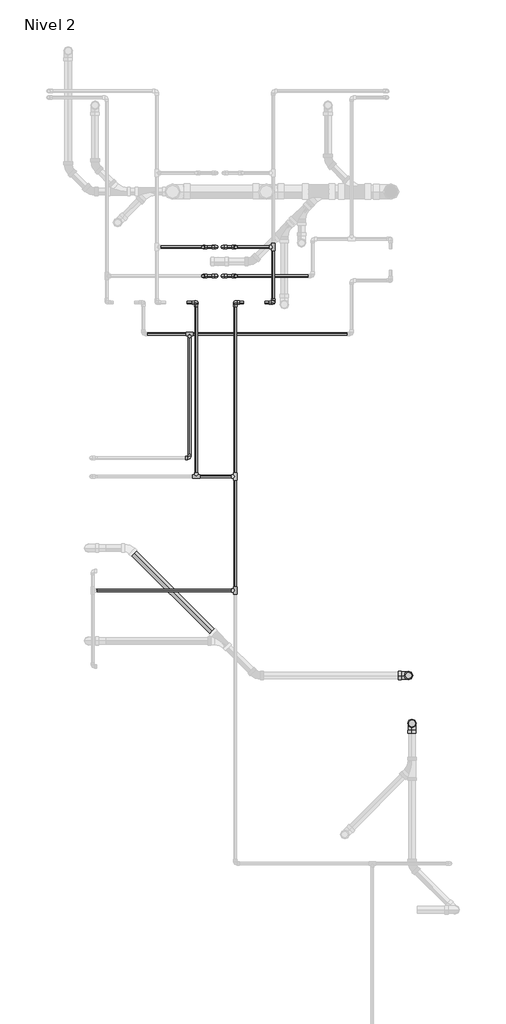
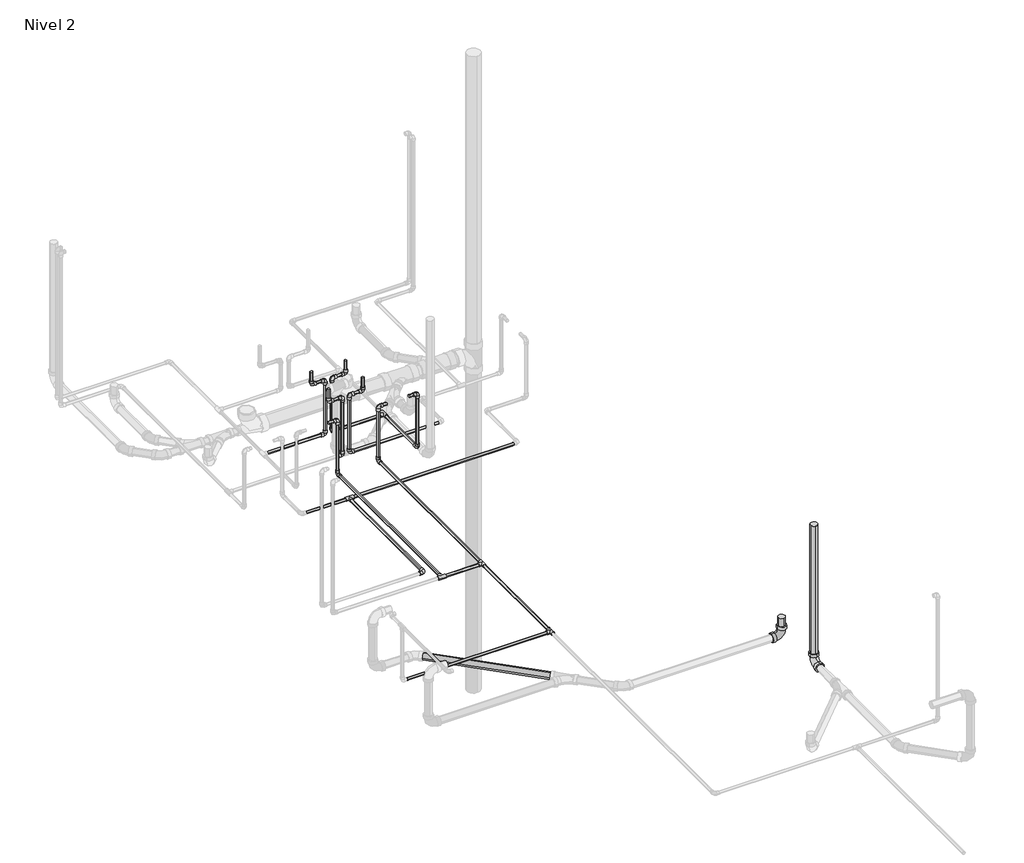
# One storey, part 7 of 9: 33 pipe segments, 26 pipe fittings.
"""IFC4 building model written with IfcOpenShell, lengths in millimetres."""

from ifc_helpers import new_model, si_unit, point, frame, frame_2d, origin, place, context, project, spatial, circle_curve, trimmed, segment, composite_curve, outline, extrude, transform, mapped, element, save
from components import pipe_fitting_ab418b84, m_codo_pvc_serie_40_9ad74631, m_codo_pvc_serie_40_ba05d404, m_codo_pvc_serie_40_dwv1_5c0ec739

model = new_model("IFC4")

# Units and contexts
model_context = context("Model", 3, world=origin())
ifc_project = project(units=[si_unit("LENGTHUNIT", "METRE", prefix="MILLI")], contexts=[model_context])

# Site, building, storey
site = spatial("IfcSite", under=ifc_project)
building = spatial("IfcBuilding", under=site)
storey = spatial("IfcBuildingStorey", under=building, Name="Nivel 2", Elevation=2800.0)

# Pipe fittings
placement = place(None, origin())
pipe_fitting_shape = pipe_fitting_ab418b84(model_context)
element("IfcPipeFitting", 1, ObjectType="M_Te - PVC - Serie 40 : Estándar", at=placement, inside=storey, context=model_context, shape_type="MappedRepresentation", body=[
    mapped(pipe_fitting_shape, transform((4584.5674476, 13135.047678, 2750.0), x_axis=(0.0, -1.0, 0.0), y_axis=(1.0, 0.0, 0.0), z_axis=(0.0, 0.0, 1.0))),
])
element("IfcPipeFitting", 2, ObjectType="M_Te - PVC - Serie 40 : Estándar", at=placement, inside=storey, context=model_context, shape_type="MappedRepresentation", body=[
    mapped(pipe_fitting_shape, transform((4263.6339186, 14068.3044589, 2750.0), x_axis=(1.0, 0.0, 0.0), y_axis=(0.0, -1.0, 0.0), z_axis=(0.0, 0.0, -1.0))),
])
element("IfcPipeFitting", 3, ObjectType="M_Te - PVC - Serie 40 : Estándar", at=placement, inside=storey, context=model_context, shape_type="MappedRepresentation", body=[
    mapped(pipe_fitting_shape, transform((4584.5674476, 14068.3044589, 2750.0), x_axis=(0.0, 1.0, 0.0), y_axis=(1.0, 0.0, 0.0), z_axis=(0.0, 0.0, -1.0))),
])
element("IfcPipeFitting", 4, ObjectType="M_Te - PVC - Serie 40 : Estándar", at=placement, inside=storey, context=model_context, shape_type="MappedRepresentation", body=[
    mapped(pipe_fitting_shape, transform((4894.5674476, 15948.3784167, 2750.0), x_axis=(0.0, -1.0, 0.0), y_axis=(1.0, 0.0, 0.0), z_axis=(0.0, 0.0, 1.0))),
])
element("IfcPipeFitting", 5, ObjectType="M_Te - PVC - Serie 40 : Estándar", at=placement, inside=storey, context=model_context, shape_type="MappedRepresentation", body=[
    mapped(pipe_fitting_shape, transform((4209.5674476, 15236.3878958, 2720.0), x_axis=(1.0, 0.0, 0.0), y_axis=(0.0, 1.0, 0.0), z_axis=(0.0, 0.0, 1.0))),
])
m_codo_pvc_serie_40_shape = m_codo_pvc_serie_40_9ad74631(model_context)
element("IfcPipeFitting", 6, ObjectType="M_Codo - PVC - Serie 40 : Estándar", at=placement, inside=storey, context=model_context, shape_type="MappedRepresentation", body=[
    mapped(m_codo_pvc_serie_40_shape, transform((4320.052369, 15948.3784167, 3200.0), x_axis=(0.0, 0.0, -1.0), y_axis=(1.0, 0.0, 0.0), z_axis=(0.0, -1.0, 0.0))),
])
element("IfcPipeFitting", 7, ObjectType="M_Codo - PVC - Serie 40 : Estándar", at=placement, inside=storey, context=model_context, shape_type="MappedRepresentation", body=[
    mapped(m_codo_pvc_serie_40_shape, transform((4428.802369, 15948.3784167, 3200.0), x_axis=(1.0, 0.0, 0.0), y_axis=(0.0, 0.0, -1.0), z_axis=(0.0, 1.0, 0.0))),
])
element("IfcPipeFitting", 8, ObjectType="M_Codo - PVC - Serie 40 : Estándar", at=placement, inside=storey, context=model_context, shape_type="MappedRepresentation", body=[
    mapped(m_codo_pvc_serie_40_shape, transform((4428.802369, 15948.3784167, 2750.0), x_axis=(0.0, 0.0, -1.0), y_axis=(-1.0, 0.0, 0.0), z_axis=(0.0, 1.0, 0.0))),
])
element("IfcPipeFitting", 9, ObjectType="M_Codo - PVC - Serie 40 : Estándar", at=placement, inside=storey, context=model_context, shape_type="MappedRepresentation", body=[
    mapped(m_codo_pvc_serie_40_shape, transform((4263.6339186, 15493.3784167, 2750.0), x_axis=(0.0, 0.0, -1.0), y_axis=(0.0, -1.0, 0.0), z_axis=(-1.0, 0.0, 0.0))),
])
element("IfcPipeFitting", 10, ObjectType="M_Codo - PVC - Serie 40 : Estándar", at=placement, inside=storey, context=model_context, shape_type="MappedRepresentation", body=[
    mapped(m_codo_pvc_serie_40_shape, transform((4584.5674476, 15493.3784167, 2750.0), x_axis=(0.0, 1.0, 0.0), y_axis=(0.0, 0.0, 1.0), z_axis=(1.0, 0.0, 0.0))),
])
element("IfcPipeFitting", 11, ObjectType="M_Codo - PVC - Serie 40 : Estándar", at=placement, inside=storey, context=model_context, shape_type="MappedRepresentation", body=[
    mapped(m_codo_pvc_serie_40_shape, transform((4584.5674476, 15493.3784167, 3200.0), x_axis=(0.0, 0.0, 1.0), y_axis=(1.0, 0.0, 0.0), z_axis=(0.0, 1.0, 0.0))),
])
element("IfcPipeFitting", 12, ObjectType="M_Codo - PVC - Serie 40 : Estándar", at=placement, inside=storey, context=model_context, shape_type="MappedRepresentation", body=[
    mapped(m_codo_pvc_serie_40_shape, transform((4894.5674476, 15493.3784167, 3200.0), x_axis=(1.0, 0.0, 0.0), y_axis=(0.0, 0.0, -1.0), z_axis=(0.0, 1.0, 0.0))),
])
element("IfcPipeFitting", 13, ObjectType="M_Codo - PVC - Serie 40 : Estándar", at=placement, inside=storey, context=model_context, shape_type="MappedRepresentation", body=[
    mapped(m_codo_pvc_serie_40_shape, transform((4894.5674476, 15493.3784167, 2750.0), x_axis=(0.0, 0.0, -1.0), y_axis=(0.0, 1.0, 0.0), z_axis=(1.0, 0.0, 0.0))),
])
element("IfcPipeFitting", 14, ObjectType="M_Codo - PVC - Serie 40 : Estándar", at=placement, inside=storey, context=model_context, shape_type="MappedRepresentation", body=[
    mapped(m_codo_pvc_serie_40_shape, transform((4263.6339186, 15493.3784167, 3200.0), x_axis=(0.0, 0.0, 1.0), y_axis=(-1.0, 0.0, 0.0), z_axis=(0.0, -1.0, 0.0))),
])
element("IfcPipeFitting", 15, ObjectType="M_Codo - PVC - Serie 40 : Estándar", at=placement, inside=storey, context=model_context, shape_type="MappedRepresentation", body=[
    mapped(m_codo_pvc_serie_40_shape, transform((4589.8538958, 15948.3784167, 3200.0), x_axis=(0.0, 0.0, -1.0), y_axis=(-1.0, 0.0, 0.0), z_axis=(0.0, 1.0, 0.0))),
])
element("IfcPipeFitting", 16, ObjectType="M_Codo - PVC - Serie 40 : Estándar", at=placement, inside=storey, context=model_context, shape_type="MappedRepresentation", body=[
    mapped(m_codo_pvc_serie_40_shape, transform((4482.3538958, 15948.3784167, 3200.0), x_axis=(-1.0, 0.0, 0.0), y_axis=(0.0, 0.0, -1.0), z_axis=(0.0, -1.0, 0.0))),
])
element("IfcPipeFitting", 17, ObjectType="M_Codo - PVC - Serie 40 : Estándar", at=placement, inside=storey, context=model_context, shape_type="MappedRepresentation", body=[
    mapped(m_codo_pvc_serie_40_shape, transform((4482.3538958, 15948.3784167, 2750.0), x_axis=(0.0, 0.0, -1.0), y_axis=(1.0, 0.0, 0.0), z_axis=(0.0, -1.0, 0.0))),
])
element("IfcPipeFitting", 18, ObjectType="M_Codo - PVC - Serie 40 : Estándar", at=placement, inside=storey, context=model_context, shape_type="MappedRepresentation", body=[
    mapped(m_codo_pvc_serie_40_shape, transform((4209.5674476, 14218.3044589, 2720.0), x_axis=(1.0, 0.0, 0.0), y_axis=(0.0, 1.0, 0.0), z_axis=(0.0, 0.0, 1.0))),
])
element("IfcPipeFitting", 19, ObjectType="M_Codo - PVC - Serie 40 : Estándar", at=placement, inside=storey, context=model_context, shape_type="MappedRepresentation", body=[
    mapped(m_codo_pvc_serie_40_shape, transform((4482.3538958, 15711.6215833, 2720.0), x_axis=(0.0, 0.0, -1.0), y_axis=(1.0, 0.0, 0.0), z_axis=(0.0, -1.0, 0.0))),
])
element("IfcPipeFitting", 20, ObjectType="M_Codo - PVC - Serie 40 : Estándar", at=placement, inside=storey, context=model_context, shape_type="MappedRepresentation", body=[
    mapped(m_codo_pvc_serie_40_shape, transform((4428.802369, 15711.6215833, 2720.0), x_axis=(0.0, 0.0, -1.0), y_axis=(-1.0, 0.0, 0.0), z_axis=(0.0, 1.0, 0.0))),
])
m_codo_pvc_serie_40_2_shape = m_codo_pvc_serie_40_ba05d404(model_context)
element("IfcPipeFitting", 21, ObjectType="M_Codo - PVC - Serie 40 : Estándar", at=placement, inside=storey, context=model_context, shape_type="MappedRepresentation", body=[
    mapped(m_codo_pvc_serie_40_2_shape, transform((4589.8538958, 15711.6215833, 3200.0), x_axis=(0.0, 0.0, -1.0), y_axis=(1.0, 0.0, 0.0), z_axis=(0.0, -1.0, 0.0))),
])
element("IfcPipeFitting", 22, ObjectType="M_Codo - PVC - Serie 40 : Estándar", at=placement, inside=storey, context=model_context, shape_type="MappedRepresentation", body=[
    mapped(m_codo_pvc_serie_40_2_shape, transform((4482.3538958, 15711.6215833, 3200.0), x_axis=(-1.0, 0.0, 0.0), y_axis=(0.0, 0.0, 1.0), z_axis=(0.0, 1.0, 0.0))),
])
element("IfcPipeFitting", 23, ObjectType="M_Codo - PVC - Serie 40 : Estándar", at=placement, inside=storey, context=model_context, shape_type="MappedRepresentation", body=[
    mapped(m_codo_pvc_serie_40_2_shape, transform((4320.052369, 15711.6215833, 3200.0), x_axis=(0.0, 0.0, -1.0), y_axis=(-1.0, 0.0, 0.0), z_axis=(0.0, 1.0, 0.0))),
])
element("IfcPipeFitting", 24, ObjectType="M_Codo - PVC - Serie 40 : Estándar", at=placement, inside=storey, context=model_context, shape_type="MappedRepresentation", body=[
    mapped(m_codo_pvc_serie_40_2_shape, transform((4428.802369, 15711.6215833, 3200.0), x_axis=(1.0, 0.0, 0.0), y_axis=(0.0, 0.0, 1.0), z_axis=(0.0, -1.0, 0.0))),
])
m_codo_pvc_serie_40_dwv1_shape = m_codo_pvc_serie_40_dwv1_5c0ec739(model_context)
element("IfcPipeFitting", 25, ObjectType="M_Codo - PVC - Serie 40 - DWV1 : Estándar 2", at=placement, inside=storey, context=model_context, shape_type="MappedRepresentation", body=[
    mapped(m_codo_pvc_serie_40_dwv1_shape, transform((6034.2551231, 12044.3420457, 2650.0), x_axis=(0.0, 1.0, 0.0), y_axis=(0.0, 0.0, 1.0), z_axis=(1.0, 0.0, 0.0))),
])
element("IfcPipeFitting", 26, ObjectType="M_Codo - PVC - Serie 40 - DWV1 : Estándar 2", at=placement, inside=storey, context=model_context, shape_type="MappedRepresentation", body=[
    mapped(m_codo_pvc_serie_40_dwv1_shape, transform((6005.8120302, 12436.942368, 2650.0), x_axis=(1.0, 0.0, 0.0), y_axis=(0.0, 0.0, 1.0), z_axis=(0.0, -1.0, 0.0))),
])

# Pipe segments
element("IfcPipeSegment", 27, ObjectType="Tuberia PVC Agua Fria", at=placement, inside=storey, context=model_context, shape_type="SweptSolid", body=[
    extrude(outline(composite_curve([segment(trimmed(circle_curve(frame_2d((2750.0, 4584.5674476)), 10.31875), [point((2750.0, 4594.8861976))], [point((2760.31875, 4584.5674476))], False, "CARTESIAN"), True, "CONTINUOUS"), segment(trimmed(circle_curve(frame_2d((2750.0, 4584.5674476)), 10.31875), [point((2760.31875, 4584.5674476))], [point((2750.0, 4574.2486976))], False, "CARTESIAN"), True, "CONTINUOUS"), segment(trimmed(circle_curve(frame_2d((2750.0, 4584.5674476)), 10.31875), [point((2750.0, 4574.2486976))], [point((2739.68125, 4584.5674476))], False, "CARTESIAN"), True, "CONTINUOUS"), segment(trimmed(circle_curve(frame_2d((2750.0, 4584.5674476)), 10.31875), [point((2739.68125, 4584.5674476))], [point((2750.0, 4594.8861976))], False, "CARTESIAN"), True, "CONTINUOUS")], self_intersect=False)), frame((0.0, 13165.5078343, 0.0), z_axis=(0.0, 1.0, 0.0), x_axis=(0.0, 0.0, 1.0)), (0.0, 0.0, 1.0), 872.3364684),
])
element("IfcPipeSegment", 28, ObjectType="Tuberia PVC Agua Fria", at=placement, inside=storey, context=model_context, shape_type="SweptSolid", body=[
    extrude(outline(composite_curve([segment(trimmed(circle_curve(frame_2d((13135.047678, 2750.0)), 10.31875), [point((13145.366428, 2750.0))], [point((13135.047678, 2739.68125))], False, "CARTESIAN"), True, "CONTINUOUS"), segment(trimmed(circle_curve(frame_2d((13135.047678, 2750.0)), 10.31875), [point((13135.047678, 2739.68125))], [point((13124.728928, 2750.0))], False, "CARTESIAN"), True, "CONTINUOUS"), segment(trimmed(circle_curve(frame_2d((13135.047678, 2750.0)), 10.31875), [point((13124.728928, 2750.0))], [point((13135.047678, 2760.31875))], False, "CARTESIAN"), True, "CONTINUOUS"), segment(trimmed(circle_curve(frame_2d((13135.047678, 2750.0)), 10.31875), [point((13135.047678, 2760.31875))], [point((13145.366428, 2750.0))], False, "CARTESIAN"), True, "CONTINUOUS")], self_intersect=False)), frame((3447.9684476, 0.0, 0.0), z_axis=(1.0, 0.0, 0.0), x_axis=(0.0, 1.0, 0.0)), (0.0, 0.0, 1.0), 1106.1388437),
])
element("IfcPipeSegment", 29, ObjectType="Tuberia PVC Agua Fria", at=placement, inside=storey, context=model_context, shape_type="SweptSolid", body=[
    extrude(outline(composite_curve([segment(trimmed(circle_curve(frame_2d((15948.3784167, 3200.0)), 10.31875), [point((15938.0596667, 3200.0))], [point((15948.3784167, 3210.31875))], False, "CARTESIAN"), True, "CONTINUOUS"), segment(trimmed(circle_curve(frame_2d((15948.3784167, 3200.0)), 10.31875), [point((15948.3784167, 3210.31875))], [point((15958.6971667, 3200.0))], False, "CARTESIAN"), True, "CONTINUOUS"), segment(trimmed(circle_curve(frame_2d((15948.3784167, 3200.0)), 10.31875), [point((15958.6971667, 3200.0))], [point((15948.3784167, 3189.68125))], False, "CARTESIAN"), True, "CONTINUOUS"), segment(trimmed(circle_curve(frame_2d((15948.3784167, 3200.0)), 10.31875), [point((15948.3784167, 3189.68125))], [point((15938.0596667, 3200.0))], False, "CARTESIAN"), True, "CONTINUOUS")], self_intersect=False)), frame((4353.453369, 0.0, 0.0), z_axis=(1.0, 0.0, 0.0), x_axis=(0.0, 1.0, 0.0)), (0.0, 0.0, 1.0), 41.948),
])
element("IfcPipeSegment", 30, ObjectType="Tuberia PVC Agua Fria", at=placement, inside=storey, context=model_context, shape_type="SweptSolid", body=[
    extrude(outline(composite_curve([segment(trimmed(circle_curve(frame_2d((4320.052369, 15948.3784167)), 10.31875), [point((4330.371119, 15948.3784167))], [point((4320.052369, 15938.0596667))], False, "CARTESIAN"), True, "CONTINUOUS"), segment(trimmed(circle_curve(frame_2d((4320.052369, 15948.3784167)), 10.31875), [point((4320.052369, 15938.0596667))], [point((4309.733619, 15948.3784167))], False, "CARTESIAN"), True, "CONTINUOUS"), segment(trimmed(circle_curve(frame_2d((4320.052369, 15948.3784167)), 10.31875), [point((4309.733619, 15948.3784167))], [point((4320.052369, 15958.6971667))], False, "CARTESIAN"), True, "CONTINUOUS"), segment(trimmed(circle_curve(frame_2d((4320.052369, 15948.3784167)), 10.31875), [point((4320.052369, 15958.6971667))], [point((4330.371119, 15948.3784167))], False, "CARTESIAN"), True, "CONTINUOUS")], self_intersect=False)), frame((0.0, 0.0, 3233.401), z_axis=(0.0, 0.0, 1.0), x_axis=(1.0, 0.0, 0.0)), (0.0, 0.0, 1.0), 74.0983614),
])
element("IfcPipeSegment", 31, ObjectType="Tuberia PVC Agua Fria", at=placement, inside=storey, context=model_context, shape_type="SweptSolid", body=[
    extrude(outline(composite_curve([segment(trimmed(circle_curve(frame_2d((15948.3784167, 2750.0)), 10.31875), [point((15958.6971667, 2750.0))], [point((15948.3784167, 2739.68125))], False, "CARTESIAN"), True, "CONTINUOUS"), segment(trimmed(circle_curve(frame_2d((15948.3784167, 2750.0)), 10.31875), [point((15948.3784167, 2739.68125))], [point((15938.0596667, 2750.0))], False, "CARTESIAN"), True, "CONTINUOUS"), segment(trimmed(circle_curve(frame_2d((15948.3784167, 2750.0)), 10.31875), [point((15938.0596667, 2750.0))], [point((15948.3784167, 2760.31875))], False, "CARTESIAN"), True, "CONTINUOUS"), segment(trimmed(circle_curve(frame_2d((15948.3784167, 2750.0)), 10.31875), [point((15948.3784167, 2760.31875))], [point((15958.6971667, 2750.0))], False, "CARTESIAN"), True, "CONTINUOUS")], self_intersect=False)), frame((3970.5125253, 0.0, 0.0), z_axis=(1.0, 0.0, 0.0), x_axis=(0.0, 1.0, 0.0)), (0.0, 0.0, 1.0), 424.8888438),
])
element("IfcPipeSegment", 32, ObjectType="Tuberia PVC Agua Fria", at=placement, inside=storey, context=model_context, shape_type="SweptSolid", body=[
    extrude(outline(composite_curve([segment(trimmed(circle_curve(frame_2d((4428.802369, 15948.3784167)), 10.31875), [point((4439.121119, 15948.3784167))], [point((4428.802369, 15938.0596667))], False, "CARTESIAN"), True, "CONTINUOUS"), segment(trimmed(circle_curve(frame_2d((4428.802369, 15948.3784167)), 10.31875), [point((4428.802369, 15938.0596667))], [point((4418.483619, 15948.3784167))], False, "CARTESIAN"), True, "CONTINUOUS"), segment(trimmed(circle_curve(frame_2d((4428.802369, 15948.3784167)), 10.31875), [point((4418.483619, 15948.3784167))], [point((4428.802369, 15958.6971667))], False, "CARTESIAN"), True, "CONTINUOUS"), segment(trimmed(circle_curve(frame_2d((4428.802369, 15948.3784167)), 10.31875), [point((4428.802369, 15958.6971667))], [point((4439.121119, 15948.3784167))], False, "CARTESIAN"), True, "CONTINUOUS")], self_intersect=False)), frame((0.0, 0.0, 2783.401), z_axis=(0.0, 0.0, 1.0), x_axis=(1.0, 0.0, 0.0)), (0.0, 0.0, 1.0), 383.198),
])
element("IfcPipeSegment", 33, ObjectType="Tuberia PVC Agua Fria", at=placement, inside=storey, context=model_context, shape_type="SweptSolid", body=[
    extrude(outline(composite_curve([segment(trimmed(circle_curve(frame_2d((2750.0, 4263.6339186)), 10.31875), [point((2750.0, 4273.9526686))], [point((2760.31875, 4263.6339186))], False, "CARTESIAN"), True, "CONTINUOUS"), segment(trimmed(circle_curve(frame_2d((2750.0, 4263.6339186)), 10.31875), [point((2760.31875, 4263.6339186))], [point((2750.0, 4253.3151686))], False, "CARTESIAN"), True, "CONTINUOUS"), segment(trimmed(circle_curve(frame_2d((2750.0, 4263.6339186)), 10.31875), [point((2750.0, 4253.3151686))], [point((2739.68125, 4263.6339186))], False, "CARTESIAN"), True, "CONTINUOUS"), segment(trimmed(circle_curve(frame_2d((2750.0, 4263.6339186)), 10.31875), [point((2739.68125, 4263.6339186))], [point((2750.0, 4273.9526686))], False, "CARTESIAN"), True, "CONTINUOUS")], self_intersect=False)), frame((0.0, 14098.7646151, 0.0), z_axis=(0.0, 1.0, 0.0), x_axis=(0.0, 0.0, 1.0)), (0.0, 0.0, 1.0), 1361.2128015),
])
element("IfcPipeSegment", 34, ObjectType="Tuberia PVC Agua Fria", at=placement, inside=storey, context=model_context, shape_type="SweptSolid", body=[
    extrude(outline(composite_curve([segment(trimmed(circle_curve(frame_2d((4263.6339186, 15493.3784167)), 10.31875), [point((4273.9526686, 15493.3784167))], [point((4263.6339186, 15483.0596667))], False, "CARTESIAN"), True, "CONTINUOUS"), segment(trimmed(circle_curve(frame_2d((4263.6339186, 15493.3784167)), 10.31875), [point((4263.6339186, 15483.0596667))], [point((4253.3151686, 15493.3784167))], False, "CARTESIAN"), True, "CONTINUOUS"), segment(trimmed(circle_curve(frame_2d((4263.6339186, 15493.3784167)), 10.31875), [point((4253.3151686, 15493.3784167))], [point((4263.6339186, 15503.6971667))], False, "CARTESIAN"), True, "CONTINUOUS"), segment(trimmed(circle_curve(frame_2d((4263.6339186, 15493.3784167)), 10.31875), [point((4263.6339186, 15503.6971667))], [point((4273.9526686, 15493.3784167))], False, "CARTESIAN"), True, "CONTINUOUS")], self_intersect=False)), frame((0.0, 0.0, 2783.401), z_axis=(0.0, 0.0, 1.0), x_axis=(1.0, 0.0, 0.0)), (0.0, 0.0, 1.0), 383.198),
])
element("IfcPipeSegment", 35, ObjectType="Tuberia PVC Agua Fria", at=placement, inside=storey, context=model_context, shape_type="SweptSolid", body=[
    extrude(outline(composite_curve([segment(trimmed(circle_curve(frame_2d((14068.3044589, 2750.0)), 10.31875), [point((14078.6232089, 2750.0))], [point((14068.3044589, 2739.68125))], False, "CARTESIAN"), True, "CONTINUOUS"), segment(trimmed(circle_curve(frame_2d((14068.3044589, 2750.0)), 10.31875), [point((14068.3044589, 2739.68125))], [point((14057.9857089, 2750.0))], False, "CARTESIAN"), True, "CONTINUOUS"), segment(trimmed(circle_curve(frame_2d((14068.3044589, 2750.0)), 10.31875), [point((14057.9857089, 2750.0))], [point((14068.3044589, 2760.31875))], False, "CARTESIAN"), True, "CONTINUOUS"), segment(trimmed(circle_curve(frame_2d((14068.3044589, 2750.0)), 10.31875), [point((14068.3044589, 2760.31875))], [point((14078.6232089, 2750.0))], False, "CARTESIAN"), True, "CONTINUOUS")], self_intersect=False)), frame((4294.0940748, 0.0, 0.0), z_axis=(1.0, 0.0, 0.0), x_axis=(0.0, 1.0, 0.0)), (0.0, 0.0, 1.0), 260.0132166),
])
element("IfcPipeSegment", 36, ObjectType="Tuberia PVC Agua Fria", at=placement, inside=storey, context=model_context, shape_type="SweptSolid", body=[
    extrude(outline(composite_curve([segment(trimmed(circle_curve(frame_2d((15493.3784167, 3200.0)), 10.31875), [point((15483.0596667, 3200.0))], [point((15493.3784167, 3210.31875))], False, "CARTESIAN"), True, "CONTINUOUS"), segment(trimmed(circle_curve(frame_2d((15493.3784167, 3200.0)), 10.31875), [point((15493.3784167, 3210.31875))], [point((15503.6971667, 3200.0))], False, "CARTESIAN"), True, "CONTINUOUS"), segment(trimmed(circle_curve(frame_2d((15493.3784167, 3200.0)), 10.31875), [point((15503.6971667, 3200.0))], [point((15493.3784167, 3189.68125))], False, "CARTESIAN"), True, "CONTINUOUS"), segment(trimmed(circle_curve(frame_2d((15493.3784167, 3200.0)), 10.31875), [point((15493.3784167, 3189.68125))], [point((15483.0596667, 3200.0))], False, "CARTESIAN"), True, "CONTINUOUS")], self_intersect=False)), frame((4190.8431438, 0.0, 0.0), z_axis=(1.0, 0.0, 0.0), x_axis=(0.0, 1.0, 0.0)), (0.0, 0.0, 1.0), 39.3897748),
])
element("IfcPipeSegment", 37, ObjectType="Tuberia PVC Agua Fria", at=placement, inside=storey, context=model_context, shape_type="SweptSolid", body=[
    extrude(outline(composite_curve([segment(trimmed(circle_curve(frame_2d((2750.0, 4584.5674476)), 10.31875), [point((2750.0, 4594.8861976))], [point((2760.31875, 4584.5674476))], False, "CARTESIAN"), True, "CONTINUOUS"), segment(trimmed(circle_curve(frame_2d((2750.0, 4584.5674476)), 10.31875), [point((2760.31875, 4584.5674476))], [point((2750.0, 4574.2486976))], False, "CARTESIAN"), True, "CONTINUOUS"), segment(trimmed(circle_curve(frame_2d((2750.0, 4584.5674476)), 10.31875), [point((2750.0, 4574.2486976))], [point((2739.68125, 4584.5674476))], False, "CARTESIAN"), True, "CONTINUOUS"), segment(trimmed(circle_curve(frame_2d((2750.0, 4584.5674476)), 10.31875), [point((2739.68125, 4584.5674476))], [point((2750.0, 4594.8861976))], False, "CARTESIAN"), True, "CONTINUOUS")], self_intersect=False)), frame((0.0, 14098.7646151, 0.0), z_axis=(0.0, 1.0, 0.0), x_axis=(0.0, 0.0, 1.0)), (0.0, 0.0, 1.0), 1361.2128015),
])
element("IfcPipeSegment", 38, ObjectType="Tuberia PVC Agua Fria", at=placement, inside=storey, context=model_context, shape_type="SweptSolid", body=[
    extrude(outline(composite_curve([segment(trimmed(circle_curve(frame_2d((15493.3784167, 3200.0)), 10.31875), [point((15483.0596667, 3200.0))], [point((15493.3784167, 3210.31875))], False, "CARTESIAN"), True, "CONTINUOUS"), segment(trimmed(circle_curve(frame_2d((15493.3784167, 3200.0)), 10.31875), [point((15493.3784167, 3210.31875))], [point((15503.6971667, 3200.0))], False, "CARTESIAN"), True, "CONTINUOUS"), segment(trimmed(circle_curve(frame_2d((15493.3784167, 3200.0)), 10.31875), [point((15503.6971667, 3200.0))], [point((15493.3784167, 3189.68125))], False, "CARTESIAN"), True, "CONTINUOUS"), segment(trimmed(circle_curve(frame_2d((15493.3784167, 3200.0)), 10.31875), [point((15493.3784167, 3189.68125))], [point((15483.0596667, 3200.0))], False, "CARTESIAN"), True, "CONTINUOUS")], self_intersect=False)), frame((4828.3535926, 0.0, 0.0), z_axis=(1.0, 0.0, 0.0), x_axis=(0.0, 1.0, 0.0)), (0.0, 0.0, 1.0), 32.812855),
])
element("IfcPipeSegment", 39, ObjectType="Tuberia PVC Agua Fria", at=placement, inside=storey, context=model_context, shape_type="SweptSolid", body=[
    extrude(outline(composite_curve([segment(trimmed(circle_curve(frame_2d((4584.5674476, 15493.3784167)), 10.31875), [point((4574.2486976, 15493.3784167))], [point((4584.5674476, 15503.6971667))], False, "CARTESIAN"), True, "CONTINUOUS"), segment(trimmed(circle_curve(frame_2d((4584.5674476, 15493.3784167)), 10.31875), [point((4584.5674476, 15503.6971667))], [point((4594.8861976, 15493.3784167))], False, "CARTESIAN"), True, "CONTINUOUS"), segment(trimmed(circle_curve(frame_2d((4584.5674476, 15493.3784167)), 10.31875), [point((4594.8861976, 15493.3784167))], [point((4584.5674476, 15483.0596667))], False, "CARTESIAN"), True, "CONTINUOUS"), segment(trimmed(circle_curve(frame_2d((4584.5674476, 15493.3784167)), 10.31875), [point((4584.5674476, 15483.0596667))], [point((4574.2486976, 15493.3784167))], False, "CARTESIAN"), True, "CONTINUOUS")], self_intersect=False)), frame((0.0, 0.0, 2783.401), z_axis=(0.0, 0.0, 1.0), x_axis=(1.0, 0.0, 0.0)), (0.0, 0.0, 1.0), 383.198),
])
element("IfcPipeSegment", 40, ObjectType="Tuberia PVC Agua Fria", at=placement, inside=storey, context=model_context, shape_type="SweptSolid", body=[
    extrude(outline(composite_curve([segment(trimmed(circle_curve(frame_2d((4894.5674476, 15493.3784167)), 10.31875), [point((4904.8861976, 15493.3784167))], [point((4894.5674476, 15483.0596667))], False, "CARTESIAN"), True, "CONTINUOUS"), segment(trimmed(circle_curve(frame_2d((4894.5674476, 15493.3784167)), 10.31875), [point((4894.5674476, 15483.0596667))], [point((4884.2486976, 15493.3784167))], False, "CARTESIAN"), True, "CONTINUOUS"), segment(trimmed(circle_curve(frame_2d((4894.5674476, 15493.3784167)), 10.31875), [point((4884.2486976, 15493.3784167))], [point((4894.5674476, 15503.6971667))], False, "CARTESIAN"), True, "CONTINUOUS"), segment(trimmed(circle_curve(frame_2d((4894.5674476, 15493.3784167)), 10.31875), [point((4894.5674476, 15503.6971667))], [point((4904.8861976, 15493.3784167))], False, "CARTESIAN"), True, "CONTINUOUS")], self_intersect=False)), frame((0.0, 0.0, 2783.401), z_axis=(0.0, 0.0, 1.0), x_axis=(1.0, 0.0, 0.0)), (0.0, 0.0, 1.0), 383.198),
])
element("IfcPipeSegment", 41, ObjectType="Tuberia PVC Agua Fria", at=placement, inside=storey, context=model_context, shape_type="SweptSolid", body=[
    extrude(outline(composite_curve([segment(trimmed(circle_curve(frame_2d((15948.3784167, 3200.0)), 10.31875), [point((15958.6971667, 3200.0))], [point((15948.3784167, 3189.68125))], False, "CARTESIAN"), True, "CONTINUOUS"), segment(trimmed(circle_curve(frame_2d((15948.3784167, 3200.0)), 10.31875), [point((15948.3784167, 3189.68125))], [point((15938.0596667, 3200.0))], False, "CARTESIAN"), True, "CONTINUOUS"), segment(trimmed(circle_curve(frame_2d((15948.3784167, 3200.0)), 10.31875), [point((15938.0596667, 3200.0))], [point((15948.3784167, 3210.31875))], False, "CARTESIAN"), True, "CONTINUOUS"), segment(trimmed(circle_curve(frame_2d((15948.3784167, 3200.0)), 10.31875), [point((15948.3784167, 3210.31875))], [point((15958.6971667, 3200.0))], False, "CARTESIAN"), True, "CONTINUOUS")], self_intersect=False)), frame((4515.7548958, 0.0, 0.0), z_axis=(1.0, 0.0, 0.0), x_axis=(0.0, 1.0, 0.0)), (0.0, 0.0, 1.0), 40.698),
])
element("IfcPipeSegment", 42, ObjectType="Tuberia PVC Agua Fria", at=placement, inside=storey, context=model_context, shape_type="SweptSolid", body=[
    extrude(outline(composite_curve([segment(trimmed(circle_curve(frame_2d((4589.8538958, 15948.3784167)), 10.31875), [point((4600.1726458, 15948.3784167))], [point((4589.8538958, 15938.0596667))], False, "CARTESIAN"), True, "CONTINUOUS"), segment(trimmed(circle_curve(frame_2d((4589.8538958, 15948.3784167)), 10.31875), [point((4589.8538958, 15938.0596667))], [point((4579.5351458, 15948.3784167))], False, "CARTESIAN"), True, "CONTINUOUS"), segment(trimmed(circle_curve(frame_2d((4589.8538958, 15948.3784167)), 10.31875), [point((4579.5351458, 15948.3784167))], [point((4589.8538958, 15958.6971667))], False, "CARTESIAN"), True, "CONTINUOUS"), segment(trimmed(circle_curve(frame_2d((4589.8538958, 15948.3784167)), 10.31875), [point((4589.8538958, 15958.6971667))], [point((4600.1726458, 15948.3784167))], False, "CARTESIAN"), True, "CONTINUOUS")], self_intersect=False)), frame((0.0, 0.0, 3233.401), z_axis=(0.0, 0.0, 1.0), x_axis=(1.0, 0.0, 0.0)), (0.0, 0.0, 1.0), 74.0983614),
])
element("IfcPipeSegment", 43, ObjectType="Tuberia PVC Agua Fria", at=placement, inside=storey, context=model_context, shape_type="SweptSolid", body=[
    extrude(outline(composite_curve([segment(trimmed(circle_curve(frame_2d((15948.3784167, 2750.0)), 10.31875), [point((15938.0596667, 2750.0))], [point((15948.3784167, 2760.31875))], False, "CARTESIAN"), True, "CONTINUOUS"), segment(trimmed(circle_curve(frame_2d((15948.3784167, 2750.0)), 10.31875), [point((15948.3784167, 2760.31875))], [point((15958.6971667, 2750.0))], False, "CARTESIAN"), True, "CONTINUOUS"), segment(trimmed(circle_curve(frame_2d((15948.3784167, 2750.0)), 10.31875), [point((15958.6971667, 2750.0))], [point((15948.3784167, 2739.68125))], False, "CARTESIAN"), True, "CONTINUOUS"), segment(trimmed(circle_curve(frame_2d((15948.3784167, 2750.0)), 10.31875), [point((15948.3784167, 2739.68125))], [point((15938.0596667, 2750.0))], False, "CARTESIAN"), True, "CONTINUOUS")], self_intersect=False)), frame((4515.7548958, 0.0, 0.0), z_axis=(1.0, 0.0, 0.0), x_axis=(0.0, 1.0, 0.0)), (0.0, 0.0, 1.0), 348.3523956),
])
element("IfcPipeSegment", 44, ObjectType="Tuberia PVC Agua Fria", at=placement, inside=storey, context=model_context, shape_type="SweptSolid", body=[
    extrude(outline(composite_curve([segment(trimmed(circle_curve(frame_2d((4482.3538958, 15948.3784167)), 10.31875), [point((4492.6726458, 15948.3784167))], [point((4482.3538958, 15938.0596667))], False, "CARTESIAN"), True, "CONTINUOUS"), segment(trimmed(circle_curve(frame_2d((4482.3538958, 15948.3784167)), 10.31875), [point((4482.3538958, 15938.0596667))], [point((4472.0351458, 15948.3784167))], False, "CARTESIAN"), True, "CONTINUOUS"), segment(trimmed(circle_curve(frame_2d((4482.3538958, 15948.3784167)), 10.31875), [point((4472.0351458, 15948.3784167))], [point((4482.3538958, 15958.6971667))], False, "CARTESIAN"), True, "CONTINUOUS"), segment(trimmed(circle_curve(frame_2d((4482.3538958, 15948.3784167)), 10.31875), [point((4482.3538958, 15958.6971667))], [point((4492.6726458, 15948.3784167))], False, "CARTESIAN"), True, "CONTINUOUS")], self_intersect=False)), frame((0.0, 0.0, 2783.401), z_axis=(0.0, 0.0, 1.0), x_axis=(1.0, 0.0, 0.0)), (0.0, 0.0, 1.0), 383.198),
])
element("IfcPipeSegment", 45, ObjectType="Tuberia PVC Agua Fria", at=placement, inside=storey, context=model_context, shape_type="SweptSolid", body=[
    extrude(outline(composite_curve([segment(trimmed(circle_curve(frame_2d((2750.0, 4894.5674476)), 10.31875), [point((2750.0, 4904.8861976))], [point((2760.31875, 4894.5674476))], False, "CARTESIAN"), True, "CONTINUOUS"), segment(trimmed(circle_curve(frame_2d((2750.0, 4894.5674476)), 10.31875), [point((2760.31875, 4894.5674476))], [point((2750.0, 4884.2486976))], False, "CARTESIAN"), True, "CONTINUOUS"), segment(trimmed(circle_curve(frame_2d((2750.0, 4894.5674476)), 10.31875), [point((2750.0, 4884.2486976))], [point((2739.68125, 4894.5674476))], False, "CARTESIAN"), True, "CONTINUOUS"), segment(trimmed(circle_curve(frame_2d((2750.0, 4894.5674476)), 10.31875), [point((2739.68125, 4894.5674476))], [point((2750.0, 4904.8861976))], False, "CARTESIAN"), True, "CONTINUOUS")], self_intersect=False)), frame((0.0, 15526.7794167, 0.0), z_axis=(0.0, 1.0, 0.0), x_axis=(0.0, 0.0, 1.0)), (0.0, 0.0, 1.0), 391.1388437),
])
element("IfcPipeSegment", 46, ObjectType="Tuberia PVC Agua Fria", at=placement, inside=storey, context=model_context, shape_type="SweptSolid", body=[
    extrude(outline(composite_curve([segment(trimmed(circle_curve(frame_2d((15493.3784167, 3200.0)), 10.31875), [point((15483.0596667, 3200.0))], [point((15493.3784167, 3210.31875))], False, "CARTESIAN"), True, "CONTINUOUS"), segment(trimmed(circle_curve(frame_2d((15493.3784167, 3200.0)), 10.31875), [point((15493.3784167, 3210.31875))], [point((15503.6971667, 3200.0))], False, "CARTESIAN"), True, "CONTINUOUS"), segment(trimmed(circle_curve(frame_2d((15493.3784167, 3200.0)), 10.31875), [point((15503.6971667, 3200.0))], [point((15493.3784167, 3189.68125))], False, "CARTESIAN"), True, "CONTINUOUS"), segment(trimmed(circle_curve(frame_2d((15493.3784167, 3200.0)), 10.31875), [point((15493.3784167, 3189.68125))], [point((15483.0596667, 3200.0))], False, "CARTESIAN"), True, "CONTINUOUS")], self_intersect=False)), frame((4617.9684476, 0.0, 0.0), z_axis=(1.0, 0.0, 0.0), x_axis=(0.0, 1.0, 0.0)), (0.0, 0.0, 1.0), 32.385145),
])
element("IfcPipeSegment", 47, ObjectType="Tuberia PVC Agua Caliente", at=placement, inside=storey, context=model_context, shape_type="SweptSolid", body=[
    extrude(outline(composite_curve([segment(trimmed(circle_curve(frame_2d((2720.0, 4209.5674476)), 10.31875), [point((2720.0, 4219.8861976))], [point((2730.31875, 4209.5674476))], False, "CARTESIAN"), True, "CONTINUOUS"), segment(trimmed(circle_curve(frame_2d((2720.0, 4209.5674476)), 10.31875), [point((2730.31875, 4209.5674476))], [point((2720.0, 4199.2486976))], False, "CARTESIAN"), True, "CONTINUOUS"), segment(trimmed(circle_curve(frame_2d((2720.0, 4209.5674476)), 10.31875), [point((2720.0, 4199.2486976))], [point((2709.68125, 4209.5674476))], False, "CARTESIAN"), True, "CONTINUOUS"), segment(trimmed(circle_curve(frame_2d((2720.0, 4209.5674476)), 10.31875), [point((2709.68125, 4209.5674476))], [point((2720.0, 4219.8861976))], False, "CARTESIAN"), True, "CONTINUOUS")], self_intersect=False)), frame((0.0, 14251.7054589, 0.0), z_axis=(0.0, 1.0, 0.0), x_axis=(0.0, 0.0, 1.0)), (0.0, 0.0, 1.0), 954.2222806),
])
element("IfcPipeSegment", 48, ObjectType="Tuberia PVC Agua Caliente", at=placement, inside=storey, context=model_context, shape_type="SweptSolid", body=[
    extrude(outline(composite_curve([segment(trimmed(circle_curve(frame_2d((15236.3878958, 2720.0)), 10.31875), [point((15246.7066458, 2720.0))], [point((15236.3878958, 2709.68125))], False, "CARTESIAN"), True, "CONTINUOUS"), segment(trimmed(circle_curve(frame_2d((15236.3878958, 2720.0)), 10.31875), [point((15236.3878958, 2709.68125))], [point((15226.0691458, 2720.0))], False, "CARTESIAN"), True, "CONTINUOUS"), segment(trimmed(circle_curve(frame_2d((15236.3878958, 2720.0)), 10.31875), [point((15226.0691458, 2720.0))], [point((15236.3878958, 2730.31875))], False, "CARTESIAN"), True, "CONTINUOUS"), segment(trimmed(circle_curve(frame_2d((15236.3878958, 2720.0)), 10.31875), [point((15236.3878958, 2730.31875))], [point((15246.7066458, 2720.0))], False, "CARTESIAN"), True, "CONTINUOUS")], self_intersect=False)), frame((3862.9684476, 0.0, 0.0), z_axis=(1.0, 0.0, 0.0), x_axis=(0.0, 1.0, 0.0)), (0.0, 0.0, 1.0), 316.1388438),
])
element("IfcPipeSegment", 49, ObjectType="Tuberia PVC Agua Caliente", at=placement, inside=storey, context=model_context, shape_type="SweptSolid", body=[
    extrude(outline(composite_curve([segment(trimmed(circle_curve(frame_2d((15236.3878958, 2720.0)), 10.31875), [point((15226.0691458, 2720.0))], [point((15236.3878958, 2730.31875))], False, "CARTESIAN"), True, "CONTINUOUS"), segment(trimmed(circle_curve(frame_2d((15236.3878958, 2720.0)), 10.31875), [point((15236.3878958, 2730.31875))], [point((15246.7066458, 2720.0))], False, "CARTESIAN"), True, "CONTINUOUS"), segment(trimmed(circle_curve(frame_2d((15236.3878958, 2720.0)), 10.31875), [point((15246.7066458, 2720.0))], [point((15236.3878958, 2709.68125))], False, "CARTESIAN"), True, "CONTINUOUS"), segment(trimmed(circle_curve(frame_2d((15236.3878958, 2720.0)), 10.31875), [point((15236.3878958, 2709.68125))], [point((15226.0691458, 2720.0))], False, "CARTESIAN"), True, "CONTINUOUS")], self_intersect=False)), frame((4240.0276039, 0.0, 0.0), z_axis=(1.0, 0.0, 0.0), x_axis=(0.0, 1.0, 0.0)), (0.0, 0.0, 1.0), 1266.599),
])
element("IfcPipeSegment", 50, ObjectType="Tuberia PVC Agua Caliente", at=placement, inside=storey, context=model_context, shape_type="SweptSolid", body=[
    extrude(outline(composite_curve([segment(trimmed(circle_curve(frame_2d((15711.6215833, 3200.0)), 10.31875), [point((15721.9403333, 3200.0))], [point((15711.6215833, 3189.68125))], False, "CARTESIAN"), True, "CONTINUOUS"), segment(trimmed(circle_curve(frame_2d((15711.6215833, 3200.0)), 10.31875), [point((15711.6215833, 3189.68125))], [point((15701.3028333, 3200.0))], False, "CARTESIAN"), True, "CONTINUOUS"), segment(trimmed(circle_curve(frame_2d((15711.6215833, 3200.0)), 10.31875), [point((15701.3028333, 3200.0))], [point((15711.6215833, 3210.31875))], False, "CARTESIAN"), True, "CONTINUOUS"), segment(trimmed(circle_curve(frame_2d((15711.6215833, 3200.0)), 10.31875), [point((15711.6215833, 3210.31875))], [point((15721.9403333, 3200.0))], False, "CARTESIAN"), True, "CONTINUOUS")], self_intersect=False)), frame((4515.7548958, 0.0, 0.0), z_axis=(1.0, 0.0, 0.0), x_axis=(0.0, 1.0, 0.0)), (0.0, 0.0, 1.0), 40.698),
])
element("IfcPipeSegment", 51, ObjectType="Tuberia PVC Agua Caliente", at=placement, inside=storey, context=model_context, shape_type="SweptSolid", body=[
    extrude(outline(composite_curve([segment(trimmed(circle_curve(frame_2d((4589.8538958, 15711.6215833)), 10.31875), [point((4600.1726458, 15711.6215833))], [point((4589.8538958, 15701.3028333))], False, "CARTESIAN"), True, "CONTINUOUS"), segment(trimmed(circle_curve(frame_2d((4589.8538958, 15711.6215833)), 10.31875), [point((4589.8538958, 15701.3028333))], [point((4579.5351458, 15711.6215833))], False, "CARTESIAN"), True, "CONTINUOUS"), segment(trimmed(circle_curve(frame_2d((4589.8538958, 15711.6215833)), 10.31875), [point((4579.5351458, 15711.6215833))], [point((4589.8538958, 15721.9403333))], False, "CARTESIAN"), True, "CONTINUOUS"), segment(trimmed(circle_curve(frame_2d((4589.8538958, 15711.6215833)), 10.31875), [point((4589.8538958, 15721.9403333))], [point((4600.1726458, 15711.6215833))], False, "CARTESIAN"), True, "CONTINUOUS")], self_intersect=False)), frame((0.0, 0.0, 3233.401), z_axis=(0.0, 0.0, 1.0), x_axis=(1.0, 0.0, 0.0)), (0.0, 0.0, 1.0), 74.0983614),
])
element("IfcPipeSegment", 52, ObjectType="Tuberia PVC Agua Caliente", at=placement, inside=storey, context=model_context, shape_type="SweptSolid", body=[
    extrude(outline(composite_curve([segment(trimmed(circle_curve(frame_2d((15711.6215833, 2720.0)), 10.31875), [point((15721.9403333, 2720.0))], [point((15711.6215833, 2709.68125))], False, "CARTESIAN"), True, "CONTINUOUS"), segment(trimmed(circle_curve(frame_2d((15711.6215833, 2720.0)), 10.31875), [point((15711.6215833, 2709.68125))], [point((15701.3028333, 2720.0))], False, "CARTESIAN"), True, "CONTINUOUS"), segment(trimmed(circle_curve(frame_2d((15711.6215833, 2720.0)), 10.31875), [point((15701.3028333, 2720.0))], [point((15711.6215833, 2730.31875))], False, "CARTESIAN"), True, "CONTINUOUS"), segment(trimmed(circle_curve(frame_2d((15711.6215833, 2720.0)), 10.31875), [point((15711.6215833, 2730.31875))], [point((15721.9403333, 2720.0))], False, "CARTESIAN"), True, "CONTINUOUS")], self_intersect=False)), frame((4515.7548958, 0.0, 0.0), z_axis=(1.0, 0.0, 0.0), x_axis=(0.0, 1.0, 0.0)), (0.0, 0.0, 1.0), 670.4115519),
])
element("IfcPipeSegment", 53, ObjectType="Tuberia PVC Agua Caliente", at=placement, inside=storey, context=model_context, shape_type="SweptSolid", body=[
    extrude(outline(composite_curve([segment(trimmed(circle_curve(frame_2d((4482.3538958, 15711.6215833)), 10.31875), [point((4492.6726458, 15711.6215833))], [point((4482.3538958, 15701.3028333))], False, "CARTESIAN"), True, "CONTINUOUS"), segment(trimmed(circle_curve(frame_2d((4482.3538958, 15711.6215833)), 10.31875), [point((4482.3538958, 15701.3028333))], [point((4472.0351458, 15711.6215833))], False, "CARTESIAN"), True, "CONTINUOUS"), segment(trimmed(circle_curve(frame_2d((4482.3538958, 15711.6215833)), 10.31875), [point((4472.0351458, 15711.6215833))], [point((4482.3538958, 15721.9403333))], False, "CARTESIAN"), True, "CONTINUOUS"), segment(trimmed(circle_curve(frame_2d((4482.3538958, 15711.6215833)), 10.31875), [point((4482.3538958, 15721.9403333))], [point((4492.6726458, 15711.6215833))], False, "CARTESIAN"), True, "CONTINUOUS")], self_intersect=False)), frame((0.0, 0.0, 2753.401), z_axis=(0.0, 0.0, 1.0), x_axis=(1.0, 0.0, 0.0)), (0.0, 0.0, 1.0), 413.198),
])
element("IfcPipeSegment", 54, ObjectType="Tuberia PVC Agua Caliente", at=placement, inside=storey, context=model_context, shape_type="SweptSolid", body=[
    extrude(outline(composite_curve([segment(trimmed(circle_curve(frame_2d((15711.6215833, 3200.0)), 10.31875), [point((15701.3028333, 3200.0))], [point((15711.6215833, 3210.31875))], False, "CARTESIAN"), True, "CONTINUOUS"), segment(trimmed(circle_curve(frame_2d((15711.6215833, 3200.0)), 10.31875), [point((15711.6215833, 3210.31875))], [point((15721.9403333, 3200.0))], False, "CARTESIAN"), True, "CONTINUOUS"), segment(trimmed(circle_curve(frame_2d((15711.6215833, 3200.0)), 10.31875), [point((15721.9403333, 3200.0))], [point((15711.6215833, 3189.68125))], False, "CARTESIAN"), True, "CONTINUOUS"), segment(trimmed(circle_curve(frame_2d((15711.6215833, 3200.0)), 10.31875), [point((15711.6215833, 3189.68125))], [point((15701.3028333, 3200.0))], False, "CARTESIAN"), True, "CONTINUOUS")], self_intersect=False)), frame((4353.453369, 0.0, 0.0), z_axis=(1.0, 0.0, 0.0), x_axis=(0.0, 1.0, 0.0)), (0.0, 0.0, 1.0), 41.948),
])
element("IfcPipeSegment", 55, ObjectType="Tuberia PVC Agua Caliente", at=placement, inside=storey, context=model_context, shape_type="SweptSolid", body=[
    extrude(outline(composite_curve([segment(trimmed(circle_curve(frame_2d((4320.052369, 15711.6215833)), 10.31875), [point((4330.371119, 15711.6215833))], [point((4320.052369, 15701.3028333))], False, "CARTESIAN"), True, "CONTINUOUS"), segment(trimmed(circle_curve(frame_2d((4320.052369, 15711.6215833)), 10.31875), [point((4320.052369, 15701.3028333))], [point((4309.733619, 15711.6215833))], False, "CARTESIAN"), True, "CONTINUOUS"), segment(trimmed(circle_curve(frame_2d((4320.052369, 15711.6215833)), 10.31875), [point((4309.733619, 15711.6215833))], [point((4320.052369, 15721.9403333))], False, "CARTESIAN"), True, "CONTINUOUS"), segment(trimmed(circle_curve(frame_2d((4320.052369, 15711.6215833)), 10.31875), [point((4320.052369, 15721.9403333))], [point((4330.371119, 15711.6215833))], False, "CARTESIAN"), True, "CONTINUOUS")], self_intersect=False)), frame((0.0, 0.0, 3233.401), z_axis=(0.0, 0.0, 1.0), x_axis=(1.0, 0.0, 0.0)), (0.0, 0.0, 1.0), 74.0983614),
])
element("IfcPipeSegment", 56, ObjectType="Tuberia PVC Agua Caliente", at=placement, inside=storey, context=model_context, shape_type="SweptSolid", body=[
    extrude(outline(composite_curve([segment(trimmed(circle_curve(frame_2d((4428.802369, 15711.6215833)), 10.31875), [point((4439.121119, 15711.6215833))], [point((4428.802369, 15701.3028333))], False, "CARTESIAN"), True, "CONTINUOUS"), segment(trimmed(circle_curve(frame_2d((4428.802369, 15711.6215833)), 10.31875), [point((4428.802369, 15701.3028333))], [point((4418.483619, 15711.6215833))], False, "CARTESIAN"), True, "CONTINUOUS"), segment(trimmed(circle_curve(frame_2d((4428.802369, 15711.6215833)), 10.31875), [point((4418.483619, 15711.6215833))], [point((4428.802369, 15721.9403333))], False, "CARTESIAN"), True, "CONTINUOUS"), segment(trimmed(circle_curve(frame_2d((4428.802369, 15711.6215833)), 10.31875), [point((4428.802369, 15721.9403333))], [point((4439.121119, 15711.6215833))], False, "CARTESIAN"), True, "CONTINUOUS")], self_intersect=False)), frame((0.0, 0.0, 2753.401), z_axis=(0.0, 0.0, 1.0), x_axis=(1.0, 0.0, 0.0)), (0.0, 0.0, 1.0), 413.198),
])
element("IfcPipeSegment", 57, ObjectType="Tuberia PVC Sanitario", at=placement, inside=storey, context=model_context, shape_type="SweptSolid", body=[
    extrude(outline(composite_curve([segment(trimmed(circle_curve(frame_2d((0.0, -26.9875)), 26.9875), [point((-26.9874999, -26.9875))], [point((0.0, 0.0))], False, "CARTESIAN"), True, "CONTINUOUS"), segment(trimmed(circle_curve(frame_2d((0.0, -26.9875)), 26.9875), [point((0.0, 0.0))], [point((26.9875001, -26.9875))], False, "CARTESIAN"), True, "CONTINUOUS"), segment(trimmed(circle_curve(frame_2d((0.0, -26.9875)), 26.9875), [point((26.9875001, -26.9875))], [point((0.0, -53.975))], False, "CARTESIAN"), True, "CONTINUOUS"), segment(trimmed(circle_curve(frame_2d((0.0, -26.9875)), 26.9875), [point((0.0, -53.975))], [point((-26.9874999, -26.9875))], False, "CARTESIAN"), True, "CONTINUOUS")], self_intersect=False)), frame((4394.6666259, 12798.0877723, 2623.0125), z_axis=(-0.7071067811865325, 0.7071067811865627, 0.0), x_axis=(0.7071067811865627, 0.7071067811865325, 0.0)), (0.0, 0.0, 1.0), 905.5365132),
])
element("IfcPipeSegment", 58, ObjectType="Tuberia PVC Sanitario", at=placement, inside=storey, context=model_context, shape_type="SweptSolid", body=[
    extrude(outline(composite_curve([segment(trimmed(circle_curve(frame_2d((6005.8120302, 12436.942368)), 26.9875), [point((5978.8245302, 12436.942368))], [point((6005.8120302, 12463.929868))], False, "CARTESIAN"), True, "CONTINUOUS"), segment(trimmed(circle_curve(frame_2d((6005.8120302, 12436.942368)), 26.9875), [point((6005.8120302, 12463.929868))], [point((6032.7995302, 12436.942368))], False, "CARTESIAN"), True, "CONTINUOUS"), segment(trimmed(circle_curve(frame_2d((6005.8120302, 12436.942368)), 26.9875), [point((6032.7995302, 12436.942368))], [point((6005.8120302, 12409.954868))], False, "CARTESIAN"), True, "CONTINUOUS"), segment(trimmed(circle_curve(frame_2d((6005.8120302, 12436.942368)), 26.9875), [point((6005.8120302, 12409.954868))], [point((5978.8245302, 12436.942368))], False, "CARTESIAN"), True, "CONTINUOUS")], self_intersect=False)), frame((0.0, 0.0, 2732.5420625), z_axis=(0.0, 0.0, 1.0), x_axis=(1.0, 0.0, 0.0)), (0.0, 0.0, 1.0), 67.4579375),
])
element("IfcPipeSegment", 59, ObjectType="Tuberia PVC Sanitario", at=placement, inside=storey, context=model_context, shape_type="SweptSolid", body=[
    extrude(outline(composite_curve([segment(trimmed(circle_curve(frame_2d((6034.2551231, 12044.3420457)), 26.9875), [point((6007.2676231, 12044.3420457))], [point((6034.2551231, 12071.3295457))], False, "CARTESIAN"), True, "CONTINUOUS"), segment(trimmed(circle_curve(frame_2d((6034.2551231, 12044.3420457)), 26.9875), [point((6034.2551231, 12071.3295457))], [point((6061.2426231, 12044.3420457))], False, "CARTESIAN"), True, "CONTINUOUS"), segment(trimmed(circle_curve(frame_2d((6034.2551231, 12044.3420457)), 26.9875), [point((6061.2426231, 12044.3420457))], [point((6034.2551231, 12017.3545457))], False, "CARTESIAN"), True, "CONTINUOUS"), segment(trimmed(circle_curve(frame_2d((6034.2551231, 12044.3420457)), 26.9875), [point((6034.2551231, 12017.3545457))], [point((6007.2676231, 12044.3420457))], False, "CARTESIAN"), True, "CONTINUOUS")], self_intersect=False)), frame((0.0, 0.0, 2732.5420625), z_axis=(0.0, 0.0, 1.0), x_axis=(1.0, 0.0, 0.0)), (0.0, 0.0, 1.0), 1067.4579375),
])

save(model, "model.ifc")
